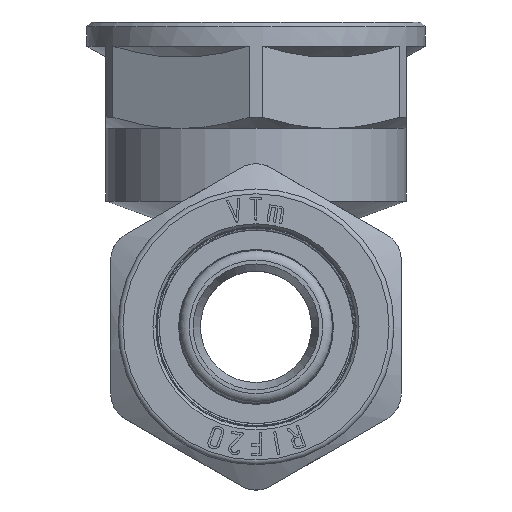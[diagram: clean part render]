
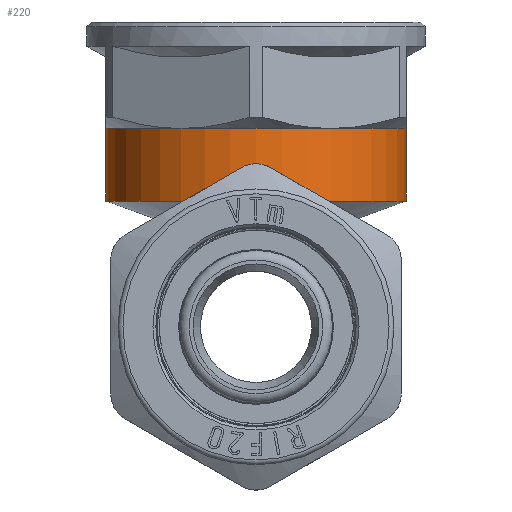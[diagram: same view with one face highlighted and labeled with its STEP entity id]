
A CAD part, front view. The second image highlights one B-rep face of the part: STEP entity #220.
In plain terms, the highlighted cylindrical face has radius 15.5 mm (diameter 31 mm), a full revolution.
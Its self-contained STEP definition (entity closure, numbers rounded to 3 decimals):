
#220=ADVANCED_FACE('',(#2293,#2295),#2297,.T.);
#2293=FACE_BOUND('',#2294,.T.);
#2294=EDGE_LOOP('',(#7439,#7440,#7441,#7442,#7443,#7444));
#2295=FACE_OUTER_BOUND('',#2296,.T.);
#2296=EDGE_LOOP('',(#7445));
#2297=CYLINDRICAL_SURFACE('',#2298,15.5);
#2298=AXIS2_PLACEMENT_3D('',#2299,#2300,#2301);
#2299=CARTESIAN_POINT('',(0.,0.,13.));
#2300=DIRECTION('',(0.,0.,1.));
#2301=DIRECTION('',(-1.,0.,0.));
#7439=ORIENTED_EDGE('',*,*,#12048,.T.);
#7440=ORIENTED_EDGE('',*,*,#12049,.T.);
#7441=ORIENTED_EDGE('',*,*,#12050,.T.);
#7442=ORIENTED_EDGE('',*,*,#12051,.T.);
#7443=ORIENTED_EDGE('',*,*,#12052,.T.);
#7444=ORIENTED_EDGE('',*,*,#12053,.T.);
#7445=ORIENTED_EDGE('',*,*,#11640,.F.);
#11640=EDGE_CURVE('',#13927,#13927,#13928,.F.);
#12048=EDGE_CURVE('',#14713,#14714,#14715,.F.);
#12049=EDGE_CURVE('',#14714,#14716,#14717,.F.);
#12050=EDGE_CURVE('',#14716,#14718,#14719,.F.);
#12051=EDGE_CURVE('',#14718,#14720,#14721,.F.);
#12052=EDGE_CURVE('',#14720,#14722,#14723,.F.);
#12053=EDGE_CURVE('',#14722,#14713,#14724,.F.);
#13927=VERTEX_POINT('',#19360);
#13928=CIRCLE('',#19361,15.5);
#14713=VERTEX_POINT('',#22312);
#14714=VERTEX_POINT('',#22313);
#14715=CIRCLE('',#22314,15.5);
#14716=VERTEX_POINT('',#22318);
#14717=CIRCLE('',#22319,15.5);
#14718=VERTEX_POINT('',#22323);
#14719=CIRCLE('',#22324,15.5);
#14720=VERTEX_POINT('',#22328);
#14721=CIRCLE('',#22329,15.5);
#14722=VERTEX_POINT('',#22333);
#14723=CIRCLE('',#22334,15.5);
#14724=CIRCLE('',#22338,15.5);
#19360=CARTESIAN_POINT('',(-15.5,0.,13.));
#19361=AXIS2_PLACEMENT_3D('',#19362,#19363,#19364);
#19362=CARTESIAN_POINT('',(0.,0.,13.));
#19363=DIRECTION('',(0.,0.,1.));
#19364=DIRECTION('',(-1.,0.,0.));
#22312=CARTESIAN_POINT('',(15.5,0.,20.5));
#22313=CARTESIAN_POINT('',(7.75,-13.423,20.5));
#22314=AXIS2_PLACEMENT_3D('',#22315,#22316,#22317);
#22315=CARTESIAN_POINT('',(0.,0.,20.5));
#22316=DIRECTION('',(0.,0.,1.));
#22317=DIRECTION('',(0.5,-0.866,0.));
#22318=CARTESIAN_POINT('',(-7.75,-13.423,20.5));
#22319=AXIS2_PLACEMENT_3D('',#22320,#22321,#22322);
#22320=CARTESIAN_POINT('',(0.,0.,20.5));
#22321=DIRECTION('',(0.,0.,1.));
#22322=DIRECTION('',(-0.5,-0.866,0.));
#22323=CARTESIAN_POINT('',(-15.5,0.,20.5));
#22324=AXIS2_PLACEMENT_3D('',#22325,#22326,#22327);
#22325=CARTESIAN_POINT('',(0.,0.,20.5));
#22326=DIRECTION('',(0.,0.,1.));
#22327=DIRECTION('',(-1.,0.,0.));
#22328=CARTESIAN_POINT('',(-7.75,13.423,20.5));
#22329=AXIS2_PLACEMENT_3D('',#22330,#22331,#22332);
#22330=CARTESIAN_POINT('',(0.,0.,20.5));
#22331=DIRECTION('',(0.,0.,1.));
#22332=DIRECTION('',(-0.5,0.866,0.));
#22333=CARTESIAN_POINT('',(7.75,13.423,20.5));
#22334=AXIS2_PLACEMENT_3D('',#22335,#22336,#22337);
#22335=CARTESIAN_POINT('',(0.,0.,20.5));
#22336=DIRECTION('',(0.,0.,1.));
#22337=DIRECTION('',(0.5,0.866,0.));
#22338=AXIS2_PLACEMENT_3D('',#22339,#22340,#22341);
#22339=CARTESIAN_POINT('',(0.,0.,20.5));
#22340=DIRECTION('',(0.,0.,1.));
#22341=DIRECTION('',(1.,0.,0.));
